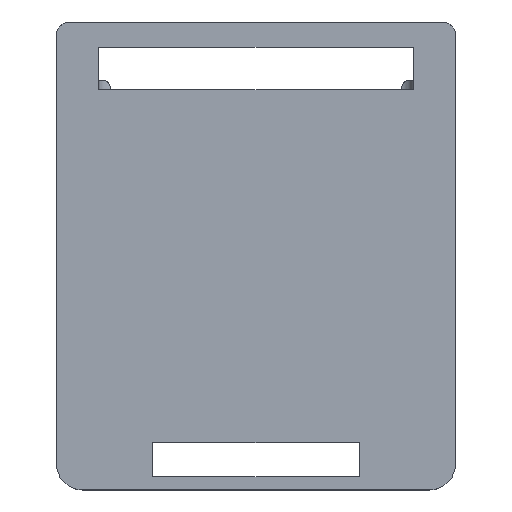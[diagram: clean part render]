
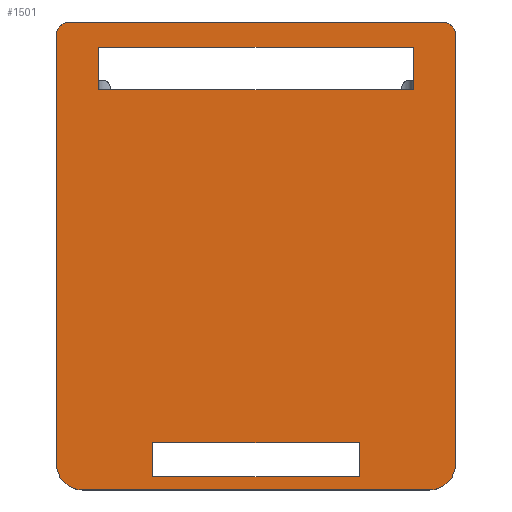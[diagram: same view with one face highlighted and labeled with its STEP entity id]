
A CAD part, top view. The second image highlights one B-rep face of the part: STEP entity #1501.
In plain terms, the highlighted planar face has unit normal (0, 0, 1).
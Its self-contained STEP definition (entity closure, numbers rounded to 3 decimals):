
#28=FACE_BOUND('',#197,.T.);
#29=FACE_BOUND('',#198,.T.);
#40=CIRCLE('',#1576,2.);
#42=CIRCLE('',#1582,4.);
#48=CIRCLE('',#1610,2.);
#50=CIRCLE('',#1614,4.);
#120=FACE_OUTER_BOUND('',#196,.T.);
#196=EDGE_LOOP('',(#1233,#1234,#1235,#1236,#1237,#1238,#1239,#1240));
#197=EDGE_LOOP('',(#1241,#1242,#1243,#1244));
#198=EDGE_LOOP('',(#1245,#1246,#1247,#1248));
#317=LINE('',#2264,#503);
#329=LINE('',#2292,#515);
#354=LINE('',#2352,#540);
#365=LINE('',#2397,#551);
#375=LINE('',#2422,#561);
#376=LINE('',#2424,#562);
#377=LINE('',#2427,#563);
#378=LINE('',#2428,#564);
#379=LINE('',#2429,#565);
#380=LINE('',#2431,#566);
#381=LINE('',#2433,#567);
#382=LINE('',#2434,#568);
#503=VECTOR('',#1811,10.);
#515=VECTOR('',#1837,10.);
#540=VECTOR('',#1902,10.);
#551=VECTOR('',#1927,10.);
#561=VECTOR('',#1949,10.);
#562=VECTOR('',#1950,10.);
#563=VECTOR('',#1953,10.);
#564=VECTOR('',#1954,10.);
#565=VECTOR('',#1955,10.);
#566=VECTOR('',#1956,10.);
#567=VECTOR('',#1957,10.);
#568=VECTOR('',#1958,10.);
#675=VERTEX_POINT('',#2261);
#676=VERTEX_POINT('',#2263);
#679=VERTEX_POINT('',#2274);
#680=VERTEX_POINT('',#2275);
#685=VERTEX_POINT('',#2290);
#686=VERTEX_POINT('',#2294);
#699=VERTEX_POINT('',#2347);
#700=VERTEX_POINT('',#2350);
#712=VERTEX_POINT('',#2394);
#713=VERTEX_POINT('',#2396);
#718=VERTEX_POINT('',#2411);
#719=VERTEX_POINT('',#2412);
#723=VERTEX_POINT('',#2423);
#724=VERTEX_POINT('',#2425);
#725=VERTEX_POINT('',#2430);
#726=VERTEX_POINT('',#2432);
#844=EDGE_CURVE('',#675,#676,#317,.T.);
#850=EDGE_CURVE('',#679,#680,#40,.T.);
#859=EDGE_CURVE('',#685,#680,#329,.T.);
#860=EDGE_CURVE('',#685,#686,#42,.T.);
#888=EDGE_CURVE('',#700,#699,#354,.T.);
#904=EDGE_CURVE('',#713,#712,#365,.T.);
#912=EDGE_CURVE('',#718,#719,#48,.T.);
#917=EDGE_CURVE('',#718,#679,#375,.T.);
#918=EDGE_CURVE('',#723,#686,#376,.T.);
#919=EDGE_CURVE('',#724,#723,#50,.T.);
#920=EDGE_CURVE('',#724,#719,#377,.T.);
#921=EDGE_CURVE('',#675,#713,#378,.T.);
#922=EDGE_CURVE('',#676,#712,#379,.T.);
#923=EDGE_CURVE('',#725,#699,#380,.T.);
#924=EDGE_CURVE('',#726,#700,#381,.T.);
#925=EDGE_CURVE('',#726,#725,#382,.T.);
#1233=ORIENTED_EDGE('',*,*,#917,.T.);
#1234=ORIENTED_EDGE('',*,*,#850,.T.);
#1235=ORIENTED_EDGE('',*,*,#859,.F.);
#1236=ORIENTED_EDGE('',*,*,#860,.T.);
#1237=ORIENTED_EDGE('',*,*,#918,.F.);
#1238=ORIENTED_EDGE('',*,*,#919,.F.);
#1239=ORIENTED_EDGE('',*,*,#920,.T.);
#1240=ORIENTED_EDGE('',*,*,#912,.F.);
#1241=ORIENTED_EDGE('',*,*,#921,.T.);
#1242=ORIENTED_EDGE('',*,*,#904,.T.);
#1243=ORIENTED_EDGE('',*,*,#922,.F.);
#1244=ORIENTED_EDGE('',*,*,#844,.F.);
#1245=ORIENTED_EDGE('',*,*,#923,.T.);
#1246=ORIENTED_EDGE('',*,*,#888,.F.);
#1247=ORIENTED_EDGE('',*,*,#924,.F.);
#1248=ORIENTED_EDGE('',*,*,#925,.T.);
#1429=PLANE('',#1613);
#1501=ADVANCED_FACE('',(#120,#28,#29),#1429,.T.);
#1576=AXIS2_PLACEMENT_3D('',#2276,#1821,#1822);
#1582=AXIS2_PLACEMENT_3D('',#2295,#1840,#1841);
#1610=AXIS2_PLACEMENT_3D('',#2413,#1939,#1940);
#1613=AXIS2_PLACEMENT_3D('',#2421,#1947,#1948);
#1614=AXIS2_PLACEMENT_3D('',#2426,#1951,#1952);
#1811=DIRECTION('',(0.,-1.,0.));
#1821=DIRECTION('center_axis',(0.,0.,1.));
#1822=DIRECTION('ref_axis',(-0.707,0.707,0.));
#1837=DIRECTION('',(0.,1.,0.));
#1840=DIRECTION('center_axis',(0.,0.,1.));
#1841=DIRECTION('ref_axis',(-0.707,-0.707,0.));
#1902=DIRECTION('',(0.,-1.,0.));
#1927=DIRECTION('',(0.,-1.,0.));
#1939=DIRECTION('center_axis',(0.,0.,-1.));
#1940=DIRECTION('ref_axis',(0.707,0.707,0.));
#1947=DIRECTION('center_axis',(0.,0.,1.));
#1948=DIRECTION('ref_axis',(1.,0.,0.));
#1949=DIRECTION('',(-1.,0.,0.));
#1950=DIRECTION('',(-1.,0.,0.));
#1951=DIRECTION('center_axis',(0.,0.,-1.));
#1952=DIRECTION('ref_axis',(0.707,-0.707,0.));
#1953=DIRECTION('',(0.,1.,0.));
#1954=DIRECTION('',(1.,0.,0.));
#1955=DIRECTION('',(1.,0.,0.));
#1956=DIRECTION('',(-1.,0.,0.));
#1957=DIRECTION('',(-1.,0.,0.));
#1958=DIRECTION('',(0.,-1.,0.));
#2261=CARTESIAN_POINT('',(-24.2,68.1,11.));
#2263=CARTESIAN_POINT('',(-24.2,61.6,11.));
#2264=CARTESIAN_POINT('',(-24.2,48.8,11.));
#2274=CARTESIAN_POINT('',(-28.7,72.,11.));
#2275=CARTESIAN_POINT('',(-30.7,70.,11.));
#2276=CARTESIAN_POINT('Origin',(-28.7,70.,11.));
#2290=CARTESIAN_POINT('',(-30.7,4.,11.));
#2292=CARTESIAN_POINT('',(-30.7,72.,11.));
#2294=CARTESIAN_POINT('',(-26.7,0.,11.));
#2295=CARTESIAN_POINT('Origin',(-26.7,4.,11.));
#2347=CARTESIAN_POINT('',(-15.9,2.,11.));
#2350=CARTESIAN_POINT('',(-15.9,7.265,11.));
#2352=CARTESIAN_POINT('',(-15.9,32.2,11.));
#2394=CARTESIAN_POINT('',(24.2,61.6,11.));
#2396=CARTESIAN_POINT('',(24.2,68.1,11.));
#2397=CARTESIAN_POINT('',(24.2,48.8,11.));
#2411=CARTESIAN_POINT('',(28.7,72.,11.));
#2412=CARTESIAN_POINT('',(30.7,70.,11.));
#2413=CARTESIAN_POINT('Origin',(28.7,70.,11.));
#2421=CARTESIAN_POINT('Origin',(15.35,36.,11.));
#2422=CARTESIAN_POINT('',(0.,72.,11.));
#2423=CARTESIAN_POINT('',(26.7,0.,11.));
#2424=CARTESIAN_POINT('',(-30.7,0.,11.));
#2425=CARTESIAN_POINT('',(30.7,4.,11.));
#2426=CARTESIAN_POINT('Origin',(26.7,4.,11.));
#2427=CARTESIAN_POINT('',(30.7,72.,11.));
#2428=CARTESIAN_POINT('',(19.775,68.1,11.));
#2429=CARTESIAN_POINT('',(-7.675,61.6,11.));
#2430=CARTESIAN_POINT('',(15.9,2.,11.));
#2431=CARTESIAN_POINT('',(15.9,2.,11.));
#2432=CARTESIAN_POINT('',(15.9,7.265,11.));
#2433=CARTESIAN_POINT('',(0.,7.265,11.));
#2434=CARTESIAN_POINT('',(15.9,32.2,11.));
